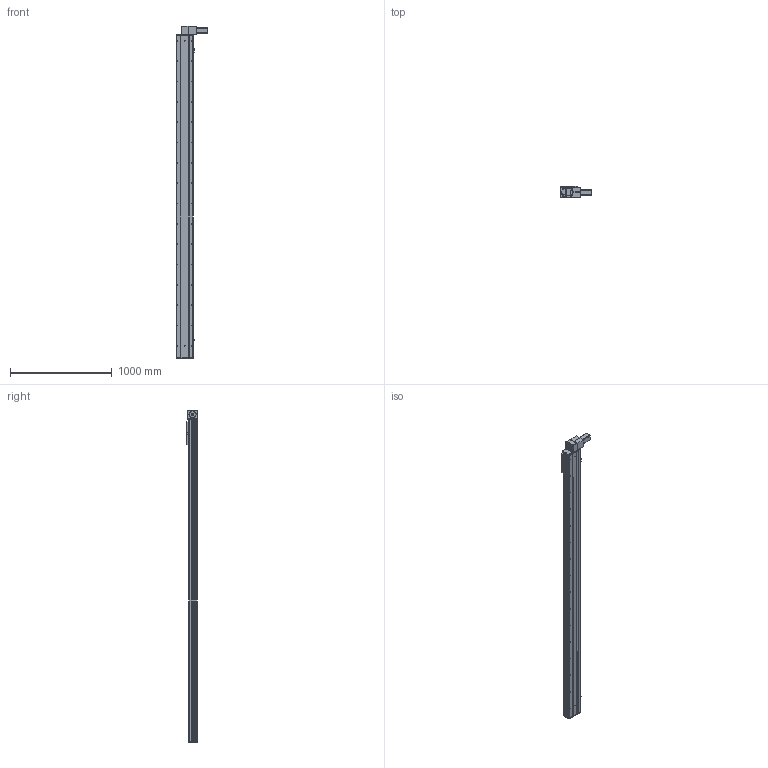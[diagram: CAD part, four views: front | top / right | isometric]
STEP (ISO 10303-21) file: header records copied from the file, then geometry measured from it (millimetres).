
FILE_DESCRIPTION (( 'STEP AP203' ), '1' );
FILE_NAME ('Y170CB-D105-S2850-BD-P400W.STEP', '2020-02-20T09:20:16', ( '微软用户' ), ( '微软中国' ), 'SwSTEP 2.0', 'SolidWorks 2017', '' );
FILE_SCHEMA (( 'CONFIG_CONTROL_DESIGN' ));
Length unit declared in the file: millimetre
Products named in the file (16): Y170CB-陔俋离換覜結え---; --70CB --喘謫眊楊擘啣-; Y1埴倛裔; 70CB-耜裔啣-; 70B喘謫眊----; 70C--詩湍揤踡え-; 0B薊粣ん眊-400W--; 70CB--耜裔; Y170CB-D105-S2850-BD-P400W; 70C-雄赽釱-奻-; 0C--雄赽釱俋欶-170; B-源倛裔啣; 70CB-詩湍--; san松下电机400不带刹车----; Y100-135俋离換覜ん--; 70CB-掛极-
Assembly tree (19 placements, depth 2):
  Y170CB-D105-S2850-BD-P400W
    B-源倛裔啣
    san松下电机400不带刹车----
    70CB-掛极-
    --70CB --喘謫眊楊擘啣-
    70CB-耜裔啣-  x2
    70C--詩湍揤踡え-  x2
    70CB--耜裔
    70C-雄赽釱-奻-
    0C--雄赽釱俋欶-170
    70CB-詩湍--
    Y100-135俋离換覜ん--  x3
    Y170CB-陔俋离換覜結え---
    Y1埴倛裔
    70B喘謫眊----
    0B薊粣ん眊-400W--
Bounding box: 313.5 x 107 x 3266 mm (x, y, z)
Volume: 14111286.8 mm3; surface area: 4967925.6 mm2
Topology: 19 solids, 19 shells, 992 faces, 2642 edges, 1752 vertices
Faces by surface type: cylinder 546, plane 422, cone 24
Entity records: 31347 total; most frequent: CARTESIAN_POINT 5866, DIRECTION 5103, ORIENTED_EDGE 4766, EDGE_CURVE 2383, AXIS2_PLACEMENT_3D 1901, VERTEX_POINT 1582, VECTOR 1301, LINE 1301
